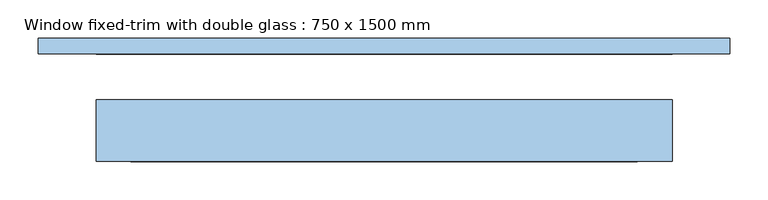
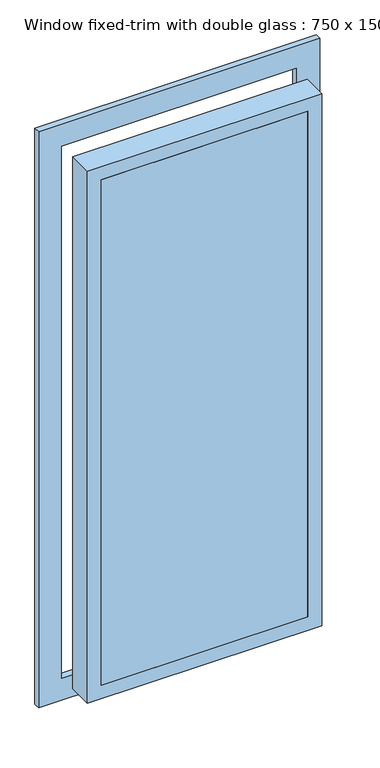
"""IFC4 building model written with IfcOpenShell, lengths in millimetres: window geometry, Window fixed-trim with double glass : 750 x 1500 mm."""

from ifc_helpers import new_model, si_unit, frame, origin, place, context, project, spatial, polyline, outline, extrude, faceted_brep, source, transform, mapped, element, save


def window_fixed_trim_with_double_glass_750_x_1500_mm_20c75347(model_context):
    return source(origin(), model_context, "Body", "SolidModel", [
        extrude(outline(polyline([(330.0, 40.0), (330.0, 36.0), (-330.0, 36.0), (-330.0, 40.0), (330.0, 40.0)])), frame((0.0, 0.0, 845.0), z_axis=(0.0, 0.0, 1.0), x_axis=(1.0, 0.0, 0.0)), (0.0, 0.0, 1.0), 1710.0),
        extrude(outline(polyline([(330.0, -36.0), (330.0, -40.0), (-330.0, -40.0), (-330.0, -36.0), (330.0, -36.0)])), frame((0.0, 0.0, 845.0), z_axis=(0.0, 0.0, 1.0), x_axis=(1.0, 0.0, 0.0)), (0.0, 0.0, 1.0), 1710.0),
        faceted_brep([(-330.0, 36.0, 2555.0), (-330.0, 40.0, 2555.0), (330.0, 40.0, 2555.0), (330.0, 36.0, 2555.0), (-315.0, -36.0, 2540.0), (-315.0, 36.0, 2540.0), (315.0, 36.0, 2540.0), (315.0, -36.0, 2540.0), (-330.0, -40.0, 2555.0), (-330.0, -36.0, 2555.0), (330.0, -36.0, 2555.0), (330.0, -40.0, 2555.0), (-375.0, 40.0, 2600.0), (-375.0, -40.0, 2600.0), (375.0, -40.0, 2600.0), (375.0, 40.0, 2600.0), (330.0, 40.0, 845.0), (330.0, 36.0, 845.0), (315.0, 36.0, 860.0), (315.0, -36.0, 860.0), (330.0, -36.0, 845.0), (330.0, -40.0, 845.0), (375.0, -40.0, 800.0), (375.0, 40.0, 800.0), (-330.0, 40.0, 845.0), (-330.0, 36.0, 845.0), (-315.0, 36.0, 860.0), (-315.0, -36.0, 860.0), (-330.0, -36.0, 845.0), (-330.0, -40.0, 845.0), (-375.0, -40.0, 800.0), (-375.0, 40.0, 800.0)], [[[0, 1, 2, 3]], [[4, 5, 6, 7]], [[8, 9, 10, 11]], [[12, 13, 14, 15]], [[3, 2, 16, 17]], [[7, 6, 18, 19]], [[11, 10, 20, 21]], [[15, 14, 22, 23]], [[17, 16, 24, 25]], [[19, 18, 26, 27]], [[21, 20, 28, 29]], [[23, 22, 30, 31]], [[15, 23, 31, 12], [1, 24, 16, 2]], [[25, 24, 1, 0]], [[3, 17, 25, 0], [5, 26, 18, 6]], [[27, 26, 5, 4]], [[9, 28, 20, 10], [7, 19, 27, 4]], [[29, 28, 9, 8]], [[13, 30, 22, 14], [11, 21, 29, 8]], [[31, 30, 13, 12]]]),
        extrude(outline(polyline([(2675.0, -450.0), (725.0, -450.0), (725.0, 450.0), (2675.0, 450.0), (2675.0, -450.0)]), holes=[polyline([(2600.0, -375.0), (2600.0, 375.0), (800.0, 375.0), (800.0, -375.0), (2600.0, -375.0)])]), frame((0.0, 100.0, 0.0), z_axis=(0.0, 1.0, 0.0), x_axis=(0.0, 0.0, 1.0)), (0.0, 0.0, 1.0), 20.0),
    ])


if __name__ == "__main__":
    model = new_model("IFC4")
    model_context = context("Model", 3, world=origin())
    ifc_project = project(units=[si_unit("LENGTHUNIT", "METRE", prefix="MILLI")], contexts=[model_context])
    site = spatial("IfcSite", under=ifc_project)
    building = spatial("IfcBuilding", under=site)
    placement = place(None, origin())
    window_fixed_trim_with_double_glass_750_x_1500_mm_shape = window_fixed_trim_with_double_glass_750_x_1500_mm_20c75347(model_context)
    element("IfcWindow", 1, ObjectType="Window fixed-trim with double glass : 750 x 1500 mm", at=placement, inside=building, context=model_context, shape_type="MappedRepresentation", body=[
        mapped(window_fixed_trim_with_double_glass_750_x_1500_mm_shape, transform((0.0, 0.0, 0.0), x_axis=(1.0, 0.0, 0.0), y_axis=(0.0, 1.0, 0.0), z_axis=(0.0, 0.0, 1.0))),
    ])
    save(model, "model.ifc")
